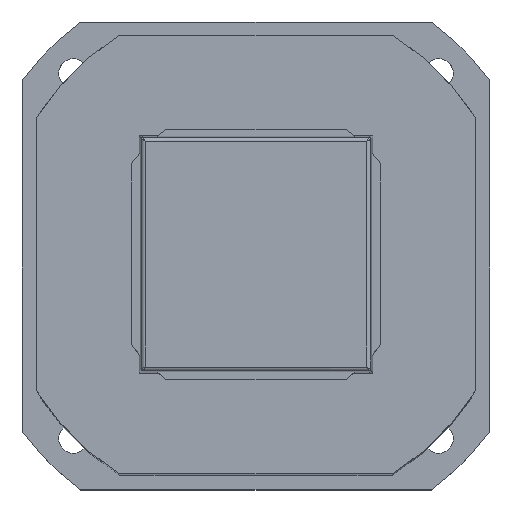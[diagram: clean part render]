
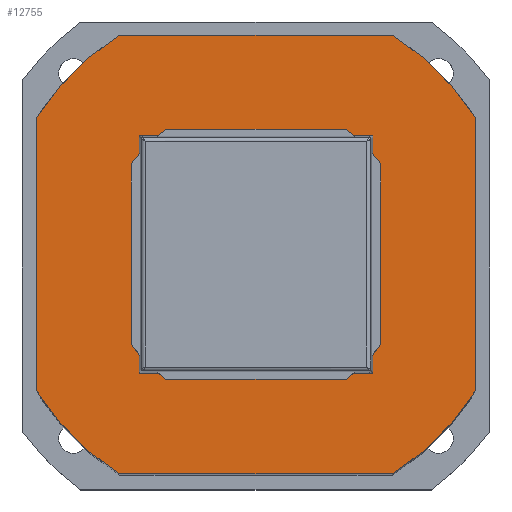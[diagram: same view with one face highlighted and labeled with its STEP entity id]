
A CAD part, top view. The second image highlights one B-rep face of the part: STEP entity #12755.
In plain terms, the highlighted planar face has unit normal (0, 0, 1).
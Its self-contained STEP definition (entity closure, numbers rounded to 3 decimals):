
#3584=CIRCLE('',#14039,132.5);
#3586=CIRCLE('',#14043,132.5);
#3588=CIRCLE('',#14047,132.5);
#3590=CIRCLE('',#14053,132.5);
#4234=VERTEX_POINT('',#17473);
#4235=VERTEX_POINT('',#17475);
#4237=VERTEX_POINT('',#17481);
#4239=VERTEX_POINT('',#17487);
#4241=VERTEX_POINT('',#17493);
#4243=VERTEX_POINT('',#17499);
#4245=VERTEX_POINT('',#17505);
#4247=VERTEX_POINT('',#17511);
#5337=LINE('',#17482,#15343);
#5341=LINE('',#17494,#15347);
#5345=LINE('',#17506,#15351);
#5347=LINE('',#17510,#15353);
#6297=EDGE_CURVE('',#4235,#4234,#3584,.T.);
#6301=EDGE_CURVE('',#4234,#4237,#5337,.T.);
#6304=EDGE_CURVE('',#4237,#4239,#3586,.T.);
#6307=EDGE_CURVE('',#4239,#4241,#5341,.T.);
#6310=EDGE_CURVE('',#4241,#4243,#3588,.T.);
#6313=EDGE_CURVE('',#4243,#4245,#5345,.T.);
#6315=EDGE_CURVE('',#4247,#4235,#5347,.T.);
#6318=EDGE_CURVE('',#4245,#4247,#3590,.T.);
#8142=ORIENTED_EDGE('',*,*,#6313,.T.);
#8143=ORIENTED_EDGE('',*,*,#6318,.T.);
#8144=ORIENTED_EDGE('',*,*,#6315,.T.);
#8145=ORIENTED_EDGE('',*,*,#6297,.T.);
#8146=ORIENTED_EDGE('',*,*,#6301,.T.);
#8147=ORIENTED_EDGE('',*,*,#6304,.T.);
#8148=ORIENTED_EDGE('',*,*,#6307,.T.);
#8149=ORIENTED_EDGE('',*,*,#6310,.T.);
#11011=EDGE_LOOP('',(#8142,#8143,#8144,#8145,#8146,#8147,#8148,#8149));
#11901=FACE_BOUND('',#11011,.T.);
#12755=ADVANCED_FACE('',(#11901),#16196,.T.);
#14039=AXIS2_PLACEMENT_3D('',#17474,#23953,#23954);
#14043=AXIS2_PLACEMENT_3D('',#17488,#23965,#23966);
#14047=AXIS2_PLACEMENT_3D('',#17500,#23976,#23977);
#14053=AXIS2_PLACEMENT_3D('',#17516,#23991,#23992);
#14054=AXIS2_PLACEMENT_3D('',#17517,#23993,$);
#15343=VECTOR('',#23959,1.);
#15347=VECTOR('',#23970,1.);
#15351=VECTOR('',#23981,1.);
#15353=VECTOR('',#23984,1.);
#16196=PLANE('',#14054);
#17473=CARTESIAN_POINT('',(-70.,-112.5,0.));
#17474=CARTESIAN_POINT('',(0.,0.,0.));
#17475=CARTESIAN_POINT('',(-112.5,-70.,0.));
#17481=CARTESIAN_POINT('',(70.,-112.5,0.));
#17482=CARTESIAN_POINT('',(-70.,-112.5,0.));
#17487=CARTESIAN_POINT('',(112.5,-70.,0.));
#17488=CARTESIAN_POINT('',(0.,0.,0.));
#17493=CARTESIAN_POINT('',(112.5,70.,0.));
#17494=CARTESIAN_POINT('',(112.5,-70.,0.));
#17499=CARTESIAN_POINT('',(70.,112.5,0.));
#17500=CARTESIAN_POINT('',(0.,0.,0.));
#17505=CARTESIAN_POINT('',(-70.,112.5,0.));
#17506=CARTESIAN_POINT('',(70.,112.5,0.));
#17510=CARTESIAN_POINT('',(-112.5,70.,0.));
#17511=CARTESIAN_POINT('',(-112.5,70.,0.));
#17516=CARTESIAN_POINT('',(0.,0.,0.));
#17517=CARTESIAN_POINT('',(0.,0.,0.));
#23953=DIRECTION('',(0.,0.,1.));
#23954=DIRECTION('',(132.5,0.,0.));
#23959=DIRECTION('',(1.,0.,0.));
#23965=DIRECTION('',(0.,0.,1.));
#23966=DIRECTION('',(132.5,0.,0.));
#23970=DIRECTION('',(0.,1.,0.));
#23976=DIRECTION('',(0.,0.,1.));
#23977=DIRECTION('',(132.5,0.,0.));
#23981=DIRECTION('',(-1.,0.,0.));
#23984=DIRECTION('',(0.,-1.,0.));
#23991=DIRECTION('',(0.,0.,1.));
#23992=DIRECTION('',(132.5,0.,0.));
#23993=DIRECTION('',(0.,0.,1.));
